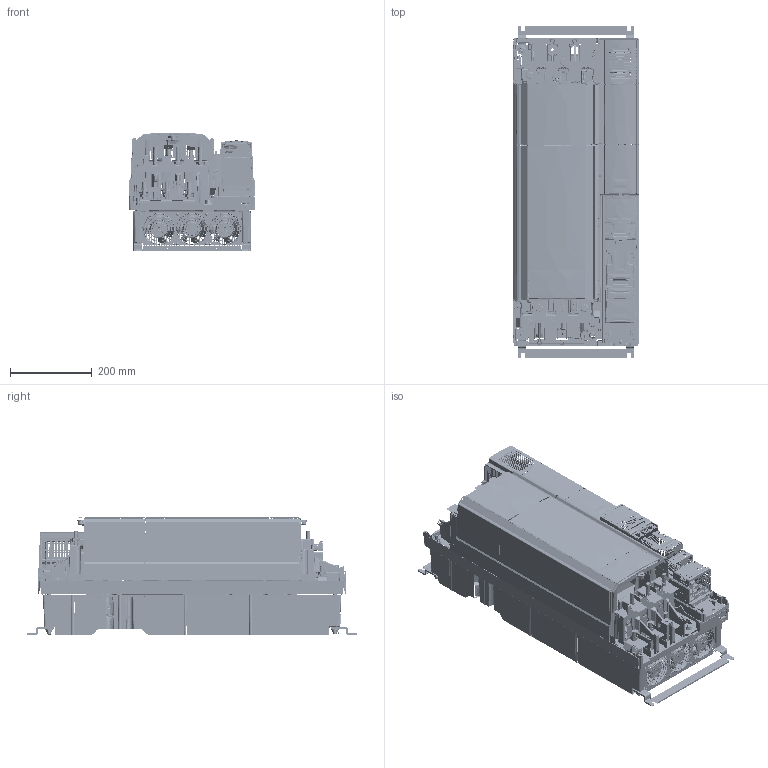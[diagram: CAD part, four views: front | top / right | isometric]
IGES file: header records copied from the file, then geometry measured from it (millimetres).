
Start section:  PTC IGES file: internal-gt8-f11.igs
Global section: file name: internal-gt8-f11.igs; native system: Pro/ENGINEER by Parametric Technology Corporation; preprocessor: 2011490; author: P94061; organization: Unknown; date: 20130829.143743; units: millimetre
Bounding box: 310.02 x 811.61 x 290.1 mm (x, y, z)
Surface area: 2459121.4 mm2 (no closed solid volume)
Topology: 0 solids, 1449 shells, 3772 faces, 32490 edges, 29924 vertices
Faces by surface type: bspline 3772
